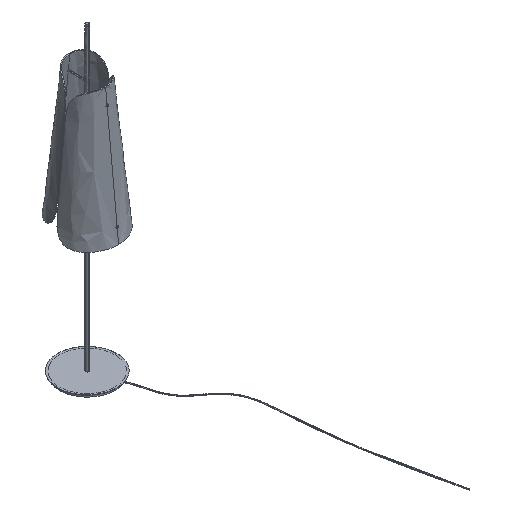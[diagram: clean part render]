
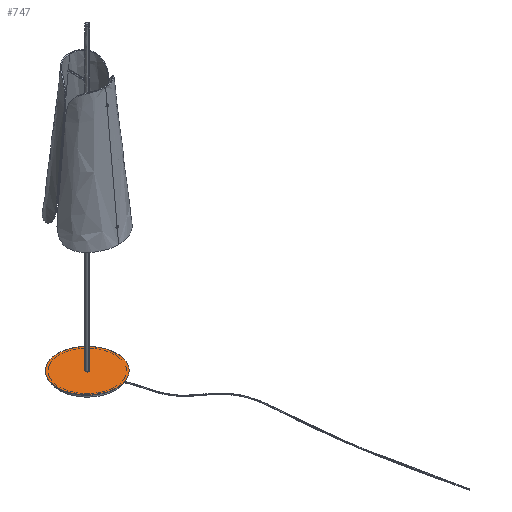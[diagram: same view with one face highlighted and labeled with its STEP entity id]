
A CAD part, isometric view. The second image highlights one B-rep face of the part: STEP entity #747.
In plain terms, the highlighted planar face has unit normal (0, 0, 1).
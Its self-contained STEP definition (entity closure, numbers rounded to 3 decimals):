
#508=FACE_BOUND('',#1253,.T.);
#747=ADVANCED_FACE('',(#993,#508),#3548,.T.);
#993=FACE_OUTER_BOUND('',#1252,.T.);
#1252=EDGE_LOOP('',(#2299,#2300));
#1253=EDGE_LOOP('',(#2301,#2302));
#2299=ORIENTED_EDGE('',*,*,#2856,.T.);
#2300=ORIENTED_EDGE('',*,*,#2862,.T.);
#2301=ORIENTED_EDGE('',*,*,#2858,.T.);
#2302=ORIENTED_EDGE('',*,*,#2865,.T.);
#2856=EDGE_CURVE('',#3469,#3473,#3137,.T.);
#2858=EDGE_CURVE('',#3471,#3475,#3139,.T.);
#2862=EDGE_CURVE('',#3473,#3469,#3143,.T.);
#2865=EDGE_CURVE('',#3475,#3471,#3146,.T.);
#3137=(
BOUNDED_CURVE()
B_SPLINE_CURVE(2,(#23699,#23700,#23701,#23702,#23703),.UNSPECIFIED.,.F.,
 .F.)
B_SPLINE_CURVE_WITH_KNOTS((3,2,3),(0.,251.327,502.655),
 .UNSPECIFIED.)
CURVE()
GEOMETRIC_REPRESENTATION_ITEM()
RATIONAL_B_SPLINE_CURVE((1.,0.707,1.,0.707,1.))
REPRESENTATION_ITEM('')
);
#3139=(
BOUNDED_CURVE()
B_SPLINE_CURVE(2,(#23709,#23710,#23711,#23712,#23713),.UNSPECIFIED.,.F.,
 .F.)
B_SPLINE_CURVE_WITH_KNOTS((3,2,3),(-56.549,-42.412,-28.274),
 .UNSPECIFIED.)
CURVE()
GEOMETRIC_REPRESENTATION_ITEM()
RATIONAL_B_SPLINE_CURVE((1.,0.707,1.,0.707,1.))
REPRESENTATION_ITEM('')
);
#3143=(
BOUNDED_CURVE()
B_SPLINE_CURVE(2,(#23723,#23724,#23725,#23726,#23727),.UNSPECIFIED.,.F.,
 .F.)
B_SPLINE_CURVE_WITH_KNOTS((3,2,3),(502.655,753.982,1005.31),
 .UNSPECIFIED.)
CURVE()
GEOMETRIC_REPRESENTATION_ITEM()
RATIONAL_B_SPLINE_CURVE((1.,0.707,1.,0.707,1.))
REPRESENTATION_ITEM('')
);
#3146=(
BOUNDED_CURVE()
B_SPLINE_CURVE(2,(#23735,#23736,#23737,#23738,#23739),.UNSPECIFIED.,.F.,
 .F.)
B_SPLINE_CURVE_WITH_KNOTS((3,2,3),(-28.274,-14.137,
0.),.UNSPECIFIED.)
CURVE()
GEOMETRIC_REPRESENTATION_ITEM()
RATIONAL_B_SPLINE_CURVE((1.,0.707,1.,0.707,1.))
REPRESENTATION_ITEM('')
);
#3469=VERTEX_POINT('',#23685);
#3471=VERTEX_POINT('',#23687);
#3473=VERTEX_POINT('',#23689);
#3475=VERTEX_POINT('',#23691);
#3548=PLANE('',#3754);
#3754=AXIS2_PLACEMENT_3D('',#23653,#3825,$);
#3825=DIRECTION('',(0.,0.,1.));
#23653=CARTESIAN_POINT('',(-200.,-200.,18.));
#23685=CARTESIAN_POINT('',(160.,0.,18.));
#23687=CARTESIAN_POINT('',(0.,9.,18.));
#23689=CARTESIAN_POINT('',(-160.,0.,18.));
#23691=CARTESIAN_POINT('',(0.,-9.,18.));
#23699=CARTESIAN_POINT('',(160.,0.,18.));
#23700=CARTESIAN_POINT('',(160.,160.,18.));
#23701=CARTESIAN_POINT('',(0.,160.,18.));
#23702=CARTESIAN_POINT('',(-160.,160.,18.));
#23703=CARTESIAN_POINT('',(-160.,0.,18.));
#23709=CARTESIAN_POINT('',(0.,9.,18.));
#23710=CARTESIAN_POINT('',(9.,9.,18.));
#23711=CARTESIAN_POINT('',(9.,0.,18.));
#23712=CARTESIAN_POINT('',(9.,-9.,18.));
#23713=CARTESIAN_POINT('',(0.,-9.,18.));
#23723=CARTESIAN_POINT('',(-160.,0.,18.));
#23724=CARTESIAN_POINT('',(-160.,-160.,18.));
#23725=CARTESIAN_POINT('',(0.,-160.,18.));
#23726=CARTESIAN_POINT('',(160.,-160.,18.));
#23727=CARTESIAN_POINT('',(160.,0.,18.));
#23735=CARTESIAN_POINT('',(0.,-9.,18.));
#23736=CARTESIAN_POINT('',(-9.,-9.,18.));
#23737=CARTESIAN_POINT('',(-9.,0.,18.));
#23738=CARTESIAN_POINT('',(-9.,9.,18.));
#23739=CARTESIAN_POINT('',(0.,9.,18.));
